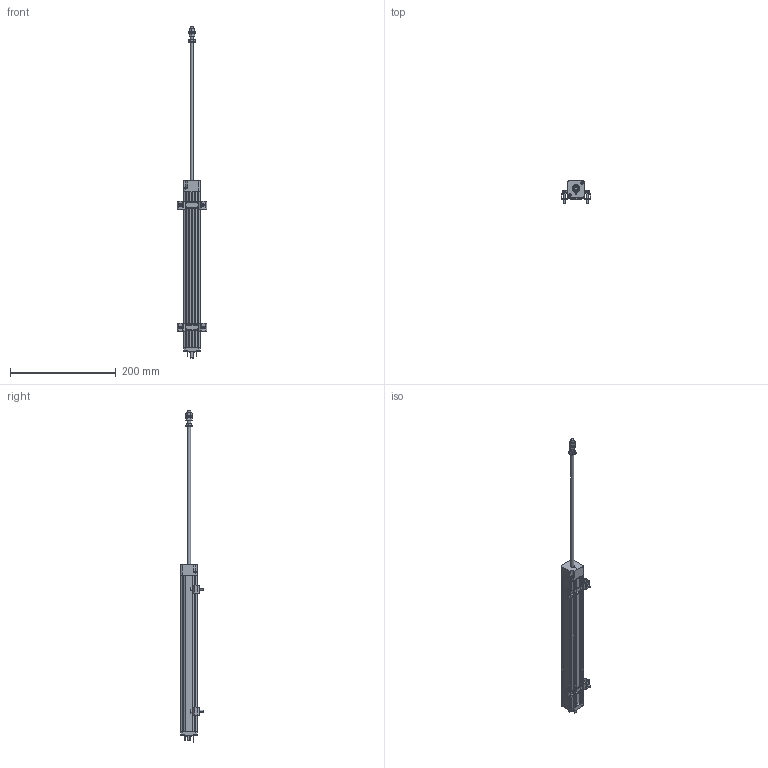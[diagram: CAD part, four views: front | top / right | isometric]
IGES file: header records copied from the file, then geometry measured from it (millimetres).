
Start section: SolidWorks IGES file using analytic representation for surfaces
Global section: file name: E:\Salzinger\I-net_3D\LWH_Essentials\LWH_prts\LWH_250.IGS; native system: SolidWorks 2008; preprocessor: SolidWorks 2008; author: salzinger; date: 081106.125325; units: millimetre
Bounding box: 56 x 43.08 x 629 mm (x, y, z)
Surface area: 84300.8 mm2 (no closed solid volume)
Topology: 0 solids, 0 shells, 1066 faces, 13290 edges, 13258 vertices
Faces by surface type: bspline 560, revolution 506
